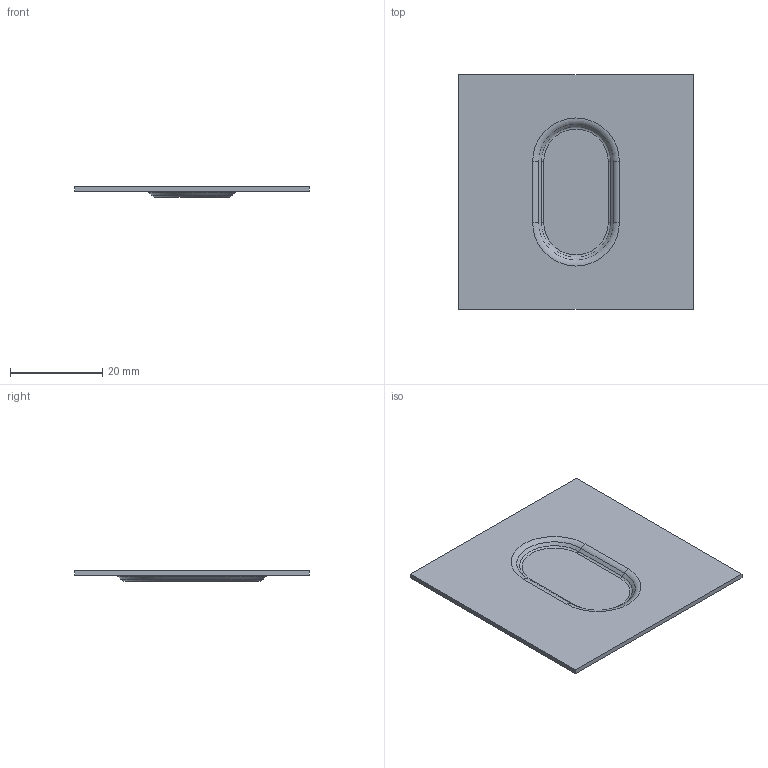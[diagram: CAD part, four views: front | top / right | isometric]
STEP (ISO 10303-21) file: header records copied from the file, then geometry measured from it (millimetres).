
FILE_DESCRIPTION((''),'1');
FILE_NAME('C:/Users/robertnolte/Desktop/707486-20.stp','2012-03-30T23:48:55',(''),(''),'Spatial Interop R21 SP3','Kubotek KeyCreator 2011 V10.5.0 (24766)',' ');
FILE_SCHEMA(('CONFIG_CONTROL_DESIGN'));
Length unit declared in the file: inch
Products named in the file (1): 1
Bounding box: 50.8 x 50.8 x 2.36 mm (x, y, z)
Volume: 2722.2 mm3; surface area: 5439.3 mm2
Topology: 1 solids, 1 shells, 32 faces, 68 edges, 40 vertices
Faces by surface type: plane 12, cylinder 8, torus 8, cone 4
Entity records: 900 total; most frequent: DIRECTION 166, CARTESIAN_POINT 141, ORIENTED_EDGE 136, EDGE_CURVE 68, AXIS2_PLACEMENT_3D 65, VERTEX_POINT 40, LINE 36, VECTOR 36
